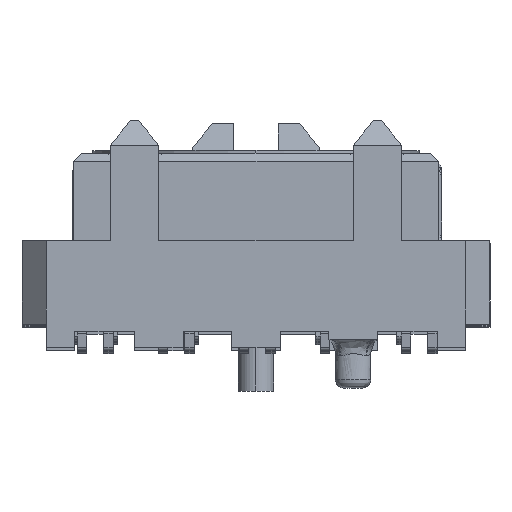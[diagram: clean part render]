
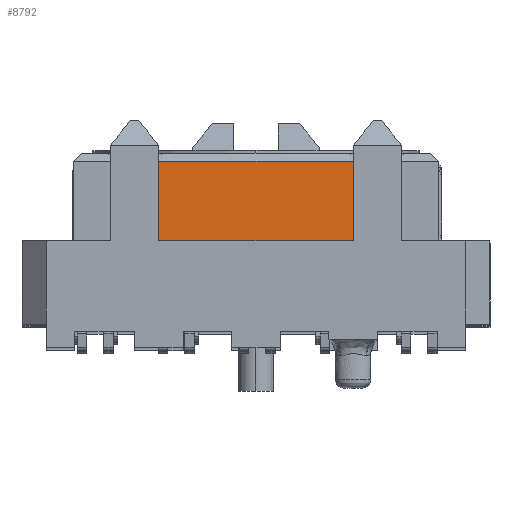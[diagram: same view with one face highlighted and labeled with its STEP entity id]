
A CAD part, top view. The second image highlights one B-rep face of the part: STEP entity #8792.
In plain terms, the highlighted planar face has unit normal (0, 0, 1).
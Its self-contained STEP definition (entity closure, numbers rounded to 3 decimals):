
#4504 = PLANE ( 'NONE',  #88706 ) ;
#5506 = ORIENTED_EDGE ( 'NONE', *, *, #80840, .F. ) ;
#8792 = ADVANCED_FACE ( 'NONE', ( #87526 ), #4504, .F. ) ;
#9677 = CARTESIAN_POINT ( 'NONE',  ( 5.74, 5.105, 26.949 ) ) ;
#11090 = LINE ( 'NONE', #68872, #48622 ) ;
#11237 = VERTEX_POINT ( 'NONE', #40451 ) ;
#11992 = DIRECTION ( 'NONE',  ( -1., 0., 0. ) ) ;
#12109 = VECTOR ( 'NONE', #48209, 1000. ) ;
#17293 = DIRECTION ( 'NONE',  ( -1., 0., 0. ) ) ;
#23001 = CARTESIAN_POINT ( 'NONE',  ( 3.048, 2.616, 26.949 ) ) ;
#25454 = CARTESIAN_POINT ( 'NONE',  ( 5.74, 0., 26.949 ) ) ;
#25464 = VERTEX_POINT ( 'NONE', #65796 ) ;
#31343 = CARTESIAN_POINT ( 'NONE',  ( 5.74, 2.616, 26.949 ) ) ;
#34812 = EDGE_CURVE ( 'NONE', #25464, #37112, #56489, .T. ) ;
#37112 = VERTEX_POINT ( 'NONE', #79390 ) ;
#40451 = CARTESIAN_POINT ( 'NONE',  ( -3.048, 2.616, 26.949 ) ) ;
#40770 = EDGE_CURVE ( 'NONE', #52923, #11237, #45553, .T. ) ;
#41303 = CARTESIAN_POINT ( 'NONE',  ( 3.048, 0., 26.949 ) ) ;
#42126 = LINE ( 'NONE', #41303, #12109 ) ;
#42901 = ORIENTED_EDGE ( 'NONE', *, *, #34812, .T. ) ;
#44147 = DIRECTION ( 'NONE',  ( -1., 0., 0. ) ) ;
#45553 = LINE ( 'NONE', #31343, #68141 ) ;
#48209 = DIRECTION ( 'NONE',  ( 0., -1., 0. ) ) ;
#48622 = VECTOR ( 'NONE', #62248, 1000. ) ;
#52923 = VERTEX_POINT ( 'NONE', #23001 ) ;
#54165 = EDGE_CURVE ( 'NONE', #11237, #37112, #11090, .T. ) ;
#56489 = LINE ( 'NONE', #9677, #69443 ) ;
#59356 = DIRECTION ( 'NONE',  ( 0., 0., -1. ) ) ;
#59674 = EDGE_LOOP ( 'NONE', ( #74640, #77605, #5506, #42901 ) ) ;
#62248 = DIRECTION ( 'NONE',  ( 0., 1., 0. ) ) ;
#65796 = CARTESIAN_POINT ( 'NONE',  ( 3.048, 5.105, 26.949 ) ) ;
#68141 = VECTOR ( 'NONE', #17293, 1000. ) ;
#68872 = CARTESIAN_POINT ( 'NONE',  ( -3.048, 0., 26.949 ) ) ;
#69443 = VECTOR ( 'NONE', #44147, 1000. ) ;
#74640 = ORIENTED_EDGE ( 'NONE', *, *, #54165, .F. ) ;
#77605 = ORIENTED_EDGE ( 'NONE', *, *, #40770, .F. ) ;
#79390 = CARTESIAN_POINT ( 'NONE',  ( -3.048, 5.105, 26.949 ) ) ;
#80840 = EDGE_CURVE ( 'NONE', #25464, #52923, #42126, .T. ) ;
#87526 = FACE_OUTER_BOUND ( 'NONE', #59674, .T. ) ;
#88706 = AXIS2_PLACEMENT_3D ( 'NONE', #25454, #59356, #11992 ) ;
